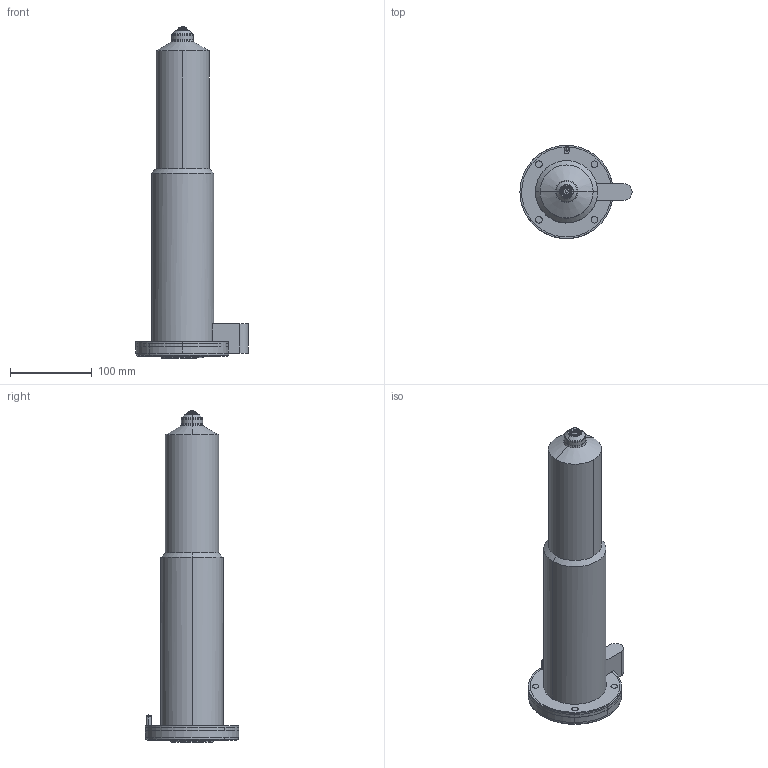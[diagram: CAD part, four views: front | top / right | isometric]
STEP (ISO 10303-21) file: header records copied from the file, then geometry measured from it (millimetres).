
FILE_DESCRIPTION (( 'STEP AP214' ), '1' );
FILE_NAME ('SR20_OPEN_400_HELICAL.STEP', '2009-08-20T20:47:22', ( 'Synventive Molding Solutions' ), ( 'Synventive Molding Solutions' ), 'SwSTEP 2.0', 'SolidWorks 2008', '' );
FILE_SCHEMA (( 'AUTOMOTIVE_DESIGN' ));
Length unit declared in the file: millimetre
Products named in the file (1): SR20_OPEN_400_HELICAL
Bounding box: 137 x 114 x 406 mm (x, y, z)
Volume: 2468420.5 mm3; surface area: 228855.4 mm2
Topology: 3 solids, 3 shells, 392 faces, 1048 edges, 664 vertices
Faces by surface type: cylinder 174, plane 81, bspline 70, cone 47, torus 18, sphere 2
Entity records: 36233 total; most frequent: CARTESIAN_POINT 22921, ORIENTED_EDGE 2076, DIRECTION 1682, EDGE_CURVE 1038, VERTEX_POINT 664, AXIS2_PLACEMENT_3D 659, EDGE_LOOP 428, UNCERTAINTY_MEASURE_WITH_UNIT 396
